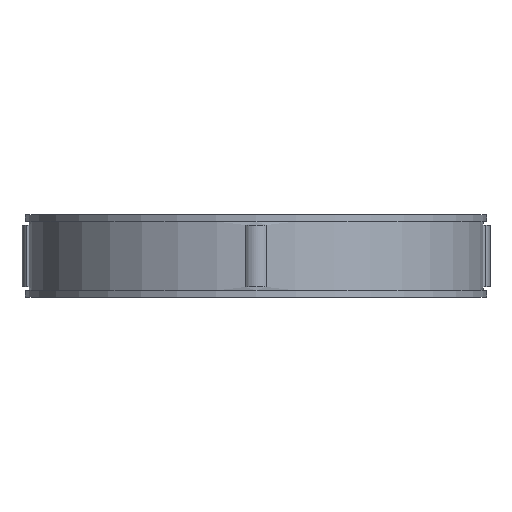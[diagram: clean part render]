
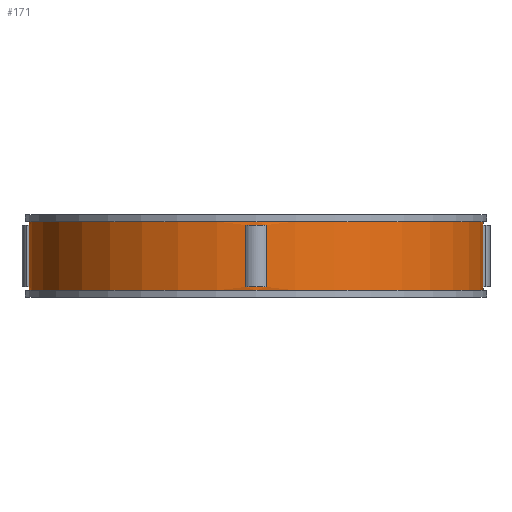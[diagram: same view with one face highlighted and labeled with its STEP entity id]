
A CAD part, front view. The second image highlights one B-rep face of the part: STEP entity #171.
In plain terms, the highlighted cylindrical face has radius 33 mm (diameter 66 mm), a full revolution.
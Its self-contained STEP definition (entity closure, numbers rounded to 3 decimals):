
#171=ADVANCED_FACE('',(#359,#360,#361,#362,#363,#364),#219,.T.);
#219=CYLINDRICAL_SURFACE('',#882,33.);
#231=LINE('',#1207,#295);
#232=LINE('',#1212,#296);
#233=LINE('',#1215,#297);
#234=LINE('',#1220,#298);
#235=LINE('',#1223,#299);
#236=LINE('',#1228,#300);
#237=LINE('',#1234,#301);
#238=LINE('',#1238,#302);
#295=VECTOR('',#966,1.);
#296=VECTOR('',#969,1.);
#297=VECTOR('',#972,1.);
#298=VECTOR('',#975,1.);
#299=VECTOR('',#978,1.);
#300=VECTOR('',#981,1.);
#301=VECTOR('',#986,1.);
#302=VECTOR('',#989,1.);
#359=FACE_BOUND('',#383,.T.);
#360=FACE_BOUND('',#384,.T.);
#361=FACE_BOUND('',#385,.T.);
#362=FACE_BOUND('',#386,.T.);
#363=FACE_BOUND('',#387,.T.);
#364=FACE_BOUND('',#388,.T.);
#383=EDGE_LOOP('',(#447));
#384=EDGE_LOOP('',(#448));
#385=EDGE_LOOP('',(#449,#450,#451,#452));
#386=EDGE_LOOP('',(#453,#454,#455,#456));
#387=EDGE_LOOP('',(#457,#458,#459,#460));
#388=EDGE_LOOP('',(#461,#462,#463,#464));
#447=ORIENTED_EDGE('',*,*,#727,.F.);
#448=ORIENTED_EDGE('',*,*,#728,.T.);
#449=ORIENTED_EDGE('',*,*,#729,.F.);
#450=ORIENTED_EDGE('',*,*,#730,.T.);
#451=ORIENTED_EDGE('',*,*,#731,.F.);
#452=ORIENTED_EDGE('',*,*,#732,.F.);
#453=ORIENTED_EDGE('',*,*,#733,.F.);
#454=ORIENTED_EDGE('',*,*,#734,.T.);
#455=ORIENTED_EDGE('',*,*,#735,.F.);
#456=ORIENTED_EDGE('',*,*,#736,.F.);
#457=ORIENTED_EDGE('',*,*,#737,.F.);
#458=ORIENTED_EDGE('',*,*,#738,.T.);
#459=ORIENTED_EDGE('',*,*,#739,.F.);
#460=ORIENTED_EDGE('',*,*,#740,.F.);
#461=ORIENTED_EDGE('',*,*,#741,.F.);
#462=ORIENTED_EDGE('',*,*,#742,.T.);
#463=ORIENTED_EDGE('',*,*,#743,.T.);
#464=ORIENTED_EDGE('',*,*,#744,.T.);
#655=VERTEX_POINT('',#1204);
#656=VERTEX_POINT('',#1206);
#657=VERTEX_POINT('',#1208);
#658=VERTEX_POINT('',#1209);
#659=VERTEX_POINT('',#1211);
#660=VERTEX_POINT('',#1213);
#661=VERTEX_POINT('',#1216);
#662=VERTEX_POINT('',#1217);
#663=VERTEX_POINT('',#1219);
#664=VERTEX_POINT('',#1221);
#665=VERTEX_POINT('',#1224);
#666=VERTEX_POINT('',#1225);
#667=VERTEX_POINT('',#1227);
#668=VERTEX_POINT('',#1229);
#669=VERTEX_POINT('',#1232);
#670=VERTEX_POINT('',#1233);
#671=VERTEX_POINT('',#1235);
#672=VERTEX_POINT('',#1237);
#727=EDGE_CURVE('',#655,#655,#831,.T.);
#728=EDGE_CURVE('',#656,#656,#832,.T.);
#729=EDGE_CURVE('',#657,#658,#231,.T.);
#730=EDGE_CURVE('',#657,#659,#833,.T.);
#731=EDGE_CURVE('',#660,#659,#232,.T.);
#732=EDGE_CURVE('',#658,#660,#834,.T.);
#733=EDGE_CURVE('',#661,#662,#233,.T.);
#734=EDGE_CURVE('',#661,#663,#835,.T.);
#735=EDGE_CURVE('',#664,#663,#234,.T.);
#736=EDGE_CURVE('',#662,#664,#836,.T.);
#737=EDGE_CURVE('',#665,#666,#235,.T.);
#738=EDGE_CURVE('',#665,#667,#837,.T.);
#739=EDGE_CURVE('',#668,#667,#236,.T.);
#740=EDGE_CURVE('',#666,#668,#838,.T.);
#741=EDGE_CURVE('',#669,#670,#839,.T.);
#742=EDGE_CURVE('',#669,#671,#237,.T.);
#743=EDGE_CURVE('',#671,#672,#840,.T.);
#744=EDGE_CURVE('',#672,#670,#238,.T.);
#831=CIRCLE('',#872,33.);
#832=CIRCLE('',#873,33.);
#833=CIRCLE('',#874,33.);
#834=CIRCLE('',#875,33.);
#835=CIRCLE('',#876,33.);
#836=CIRCLE('',#877,33.);
#837=CIRCLE('',#878,33.);
#838=CIRCLE('',#879,33.);
#839=CIRCLE('',#880,33.);
#840=CIRCLE('',#881,33.);
#872=AXIS2_PLACEMENT_3D('',#1203,#962,#963);
#873=AXIS2_PLACEMENT_3D('',#1205,#964,#965);
#874=AXIS2_PLACEMENT_3D('',#1210,#967,#968);
#875=AXIS2_PLACEMENT_3D('',#1214,#970,#971);
#876=AXIS2_PLACEMENT_3D('',#1218,#973,#974);
#877=AXIS2_PLACEMENT_3D('',#1222,#976,#977);
#878=AXIS2_PLACEMENT_3D('',#1226,#979,#980);
#879=AXIS2_PLACEMENT_3D('',#1230,#982,#983);
#880=AXIS2_PLACEMENT_3D('',#1231,#984,#985);
#881=AXIS2_PLACEMENT_3D('',#1236,#987,#988);
#882=AXIS2_PLACEMENT_3D('',#1239,#990,#991);
#962=DIRECTION('',(0.,0.,1.));
#963=DIRECTION('',(1.,0.,0.));
#964=DIRECTION('',(0.,0.,1.));
#965=DIRECTION('',(1.,0.,0.));
#966=DIRECTION('',(0.,0.,-1.));
#967=DIRECTION('',(0.,0.,1.));
#968=DIRECTION('',(1.,0.,0.));
#969=DIRECTION('',(0.,0.,1.));
#970=DIRECTION('',(0.,0.,1.));
#971=DIRECTION('',(1.,0.,0.));
#972=DIRECTION('',(0.,0.,-1.));
#973=DIRECTION('',(0.,0.,1.));
#974=DIRECTION('',(1.,0.,0.));
#975=DIRECTION('',(0.,0.,1.));
#976=DIRECTION('',(0.,0.,1.));
#977=DIRECTION('',(1.,0.,0.));
#978=DIRECTION('',(0.,0.,-1.));
#979=DIRECTION('',(0.,0.,1.));
#980=DIRECTION('',(1.,0.,0.));
#981=DIRECTION('',(0.,0.,1.));
#982=DIRECTION('',(0.,0.,1.));
#983=DIRECTION('',(1.,0.,0.));
#984=DIRECTION('',(0.,0.,-1.));
#985=DIRECTION('',(-1.,0.,0.));
#986=DIRECTION('',(0.,0.,-1.));
#987=DIRECTION('',(0.,0.,-1.));
#988=DIRECTION('',(-1.,0.,0.));
#989=DIRECTION('',(0.,0.,1.));
#990=DIRECTION('',(0.,0.,-1.));
#991=DIRECTION('',(-1.,0.,0.));
#1203=CARTESIAN_POINT('',(0.,0.,11.));
#1204=CARTESIAN_POINT('',(33.,0.,11.));
#1205=CARTESIAN_POINT('',(0.,0.,1.));
#1206=CARTESIAN_POINT('',(33.,0.,1.));
#1207=CARTESIAN_POINT('',(32.967,-1.471,12.));
#1208=CARTESIAN_POINT('',(32.967,-1.471,10.5));
#1209=CARTESIAN_POINT('',(32.967,-1.471,1.5));
#1210=CARTESIAN_POINT('',(0.,0.,10.5));
#1211=CARTESIAN_POINT('',(32.967,1.471,10.5));
#1212=CARTESIAN_POINT('',(32.967,1.471,12.));
#1213=CARTESIAN_POINT('',(32.967,1.471,1.5));
#1214=CARTESIAN_POINT('',(0.,0.,1.5));
#1215=CARTESIAN_POINT('',(1.471,32.967,12.));
#1216=CARTESIAN_POINT('',(1.471,32.967,10.5));
#1217=CARTESIAN_POINT('',(1.471,32.967,1.5));
#1218=CARTESIAN_POINT('',(0.,0.,10.5));
#1219=CARTESIAN_POINT('',(-1.471,32.967,10.5));
#1220=CARTESIAN_POINT('',(-1.471,32.967,12.));
#1221=CARTESIAN_POINT('',(-1.471,32.967,1.5));
#1222=CARTESIAN_POINT('',(0.,0.,1.5));
#1223=CARTESIAN_POINT('',(-32.967,1.471,12.));
#1224=CARTESIAN_POINT('',(-32.967,1.471,10.5));
#1225=CARTESIAN_POINT('',(-32.967,1.471,1.5));
#1226=CARTESIAN_POINT('',(0.,0.,10.5));
#1227=CARTESIAN_POINT('',(-32.967,-1.471,10.5));
#1228=CARTESIAN_POINT('',(-32.967,-1.471,12.));
#1229=CARTESIAN_POINT('',(-32.967,-1.471,1.5));
#1230=CARTESIAN_POINT('',(0.,0.,1.5));
#1231=CARTESIAN_POINT('',(0.,0.,10.5));
#1232=CARTESIAN_POINT('',(1.471,-32.967,10.5));
#1233=CARTESIAN_POINT('',(-1.471,-32.967,10.5));
#1234=CARTESIAN_POINT('',(1.471,-32.967,12.));
#1235=CARTESIAN_POINT('',(1.471,-32.967,1.5));
#1236=CARTESIAN_POINT('',(0.,0.,1.5));
#1237=CARTESIAN_POINT('',(-1.471,-32.967,1.5));
#1238=CARTESIAN_POINT('',(-1.471,-32.967,12.));
#1239=CARTESIAN_POINT('',(0.,0.,12.));
